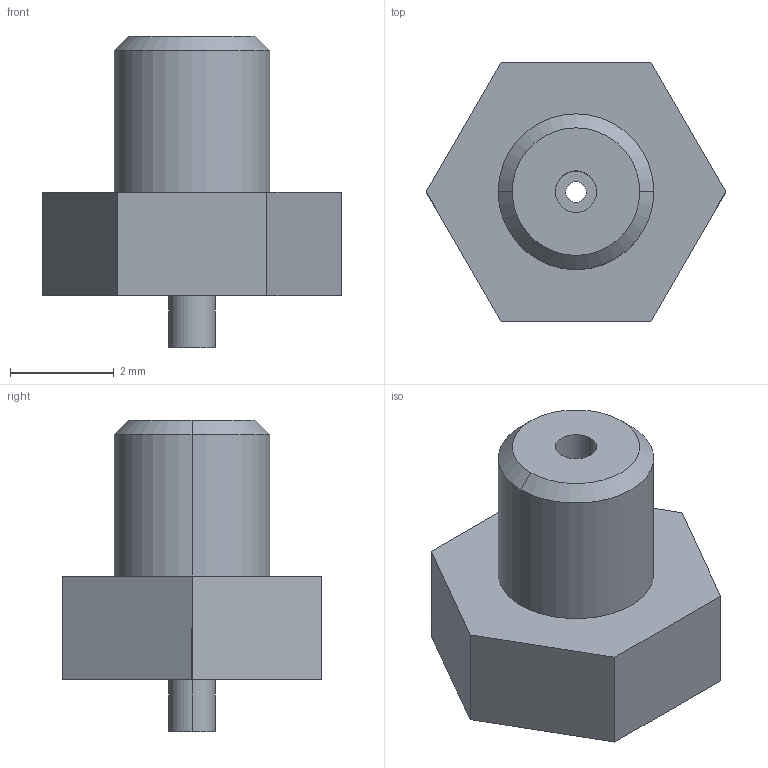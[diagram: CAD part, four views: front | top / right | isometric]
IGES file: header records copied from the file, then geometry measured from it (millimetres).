
Start section: 3D InterOp IGES (v. 2018 1.0.2), Spatial Corp. Copyright (c) 1999-2017.
Global section: file name: schmalz_10_01_01_00315_2ji7oun5xh11cm2k9t0focqlc.igs; native system: Spatial Corp.; preprocessor: 3D InterOp ACIS/IGES; author: TraceParts; organization: TraceParts S.A.; date: 20181128.023614; units: millimetre
Bounding box: 5.77 x 5 x 6 mm (x, y, z)
Surface area: 119.8 mm2 (no closed solid volume)
Topology: 0 solids, 0 shells, 21 faces, 92 edges, 92 vertices
Faces by surface type: extrusion 11, revolution 10
